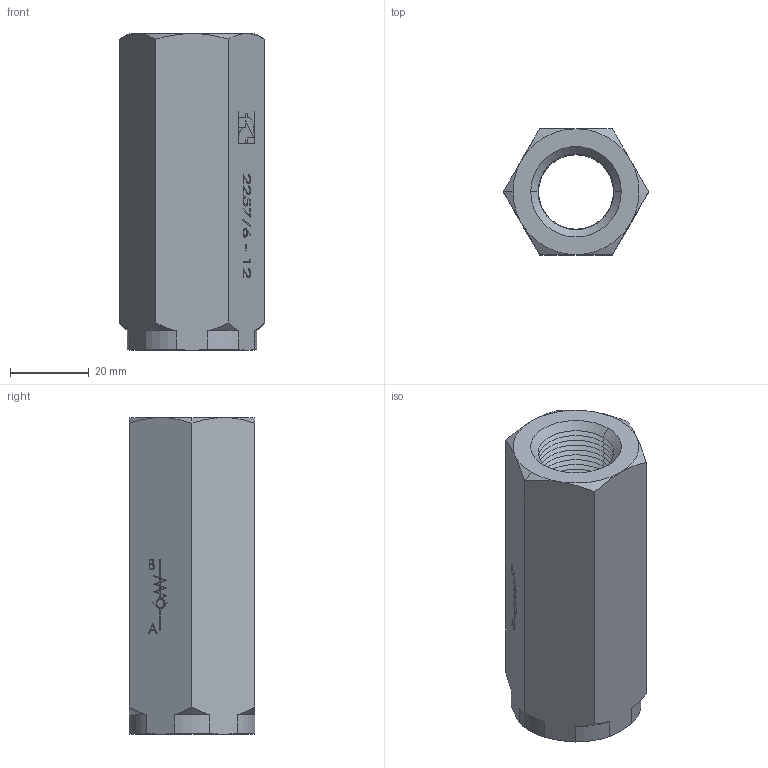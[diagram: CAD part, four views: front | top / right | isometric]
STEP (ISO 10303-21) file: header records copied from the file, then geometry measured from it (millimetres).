
FILE_DESCRIPTION (( 'STEP AP214' ), '1' );
FILE_NAME ('2257-6-12.STEP', '2015-04-08T19:57:54', ( '' ), ( '' ), 'SwSTEP 2.0', 'SolidWorks 2014', '' );
FILE_SCHEMA (( 'AUTOMOTIVE_DESIGN' ));
Length unit declared in the file: millimetre
Products named in the file (1): 2257-6-12
Bounding box: 36.95 x 32 x 80.5 mm (x, y, z)
Surface area: 12306.2 mm2 (no closed solid volume)
Topology: 0 solids, 10 shells, 287 faces, 817 edges, 528 vertices
Faces by surface type: plane 146, cone 83, bspline 40, cylinder 18
Entity records: 14888 total; most frequent: CARTESIAN_POINT 4593, ORIENTED_EDGE 1468, DIRECTION 1327, EDGE_CURVE 817, VECTOR 555, LINE 555, VERTEX_POINT 528, AXIS2_PLACEMENT_3D 386
